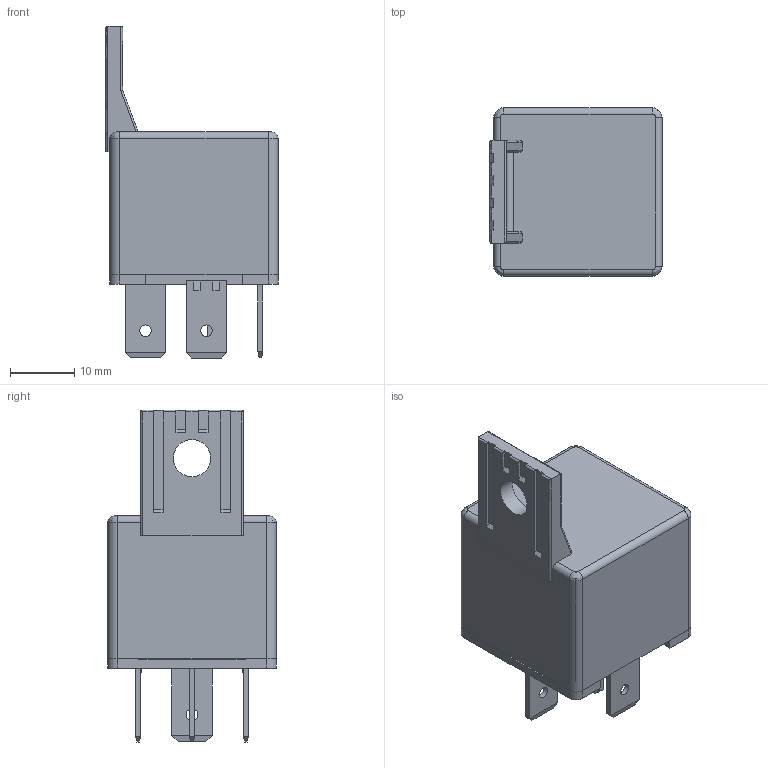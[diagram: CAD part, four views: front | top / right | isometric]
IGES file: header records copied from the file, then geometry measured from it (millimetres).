
Global section: file name: Filename.iges; native system: Open CASCADE 7.3; preprocessor: Open CASCADE IGES processor 7.3; date: 20200625.092254; units: millimetre
Bounding box: 26.8 x 26.2 x 51.7 mm (x, y, z)
Surface area: 9897.6 mm2 (no closed solid volume)
Topology: 0 solids, 0 shells, 507 faces, 7848 edges, 28728 vertices
Faces by surface type: plane 427, revolution 75, bspline 4, extrusion 1
